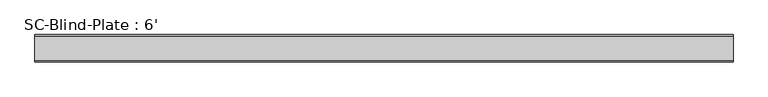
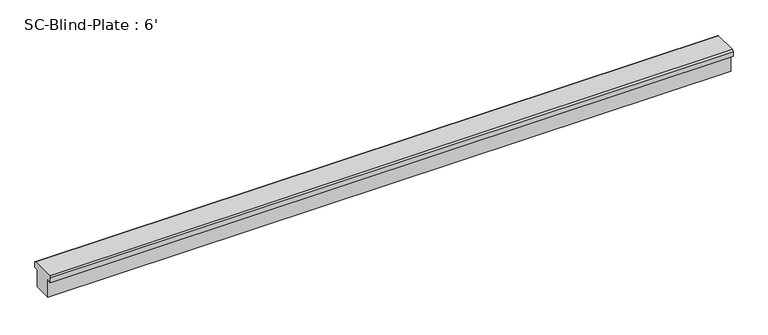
"""IFC4 building model written with IfcOpenShell, lengths in millimetres: proxy geometry, SC-Blind-Plate : 6'."""

import ifcopenshell
import ifcopenshell.guid

model = None  # the IFC model being written
_history = None  # IfcOwnerHistory: only IFC2X3 demands one
_inside = {}  # id of a spatial element -> (the spatial element, [elements in it])
_under = {}  # id of a project, library or spatial element -> (it, [spatial elements below it])
_declared = {}  # id of a project -> (the project, [libraries it declares])
_typed = {}  # id of a type object -> (the type object, [elements of that type])
_made_of = {}  # id of a material, layer set ... -> (it, [elements and type objects made of it])


def new_model(schema):
    """Start an empty IFC model of exactly this schema.

    Asked for "IFC4X3", IfcOpenShell would pick the latest addendum, in which some entities
    have other attributes; the version numbers below select the first issue.
    IFC2X3 requires an IfcOwnerHistory on every rooted entity: one is made here for all.
    """
    global model, _history
    if schema == "IFC4X3":
        model = ifcopenshell.file(schema_version=(4, 3, 0, 0))
    else:
        model = ifcopenshell.file(schema=schema)
    _inside.clear()
    _under.clear()
    _declared.clear()
    _typed.clear()
    _made_of.clear()
    _history = None
    if model.schema == "IFC2X3":
        org = make("IfcOrganization", Name="unknown")
        user = make(
            "IfcPersonAndOrganization",
            ThePerson=make("IfcPerson", FamilyName="unknown"),
            TheOrganization=org,
        )
        app = make(
            "IfcApplication",
            ApplicationDeveloper=org,
            Version="unknown",
            ApplicationFullName="unknown",
            ApplicationIdentifier="unknown",
        )
        _history = make(
            "IfcOwnerHistory",
            OwningUser=user,
            OwningApplication=app,
            ChangeAction="ADDED",
            CreationDate=0,
        )
    return model


def make(cls, **values):
    """One entity of the class cls with the attributes given. An attribute that is None is left unset."""
    return model.create_entity(
        cls, **{name: value for name, value in values.items() if value is not None}
    )


def rooted(cls, **values):
    """An entity with a GlobalId (a new one), such as an element, a storey or a relation."""
    return make(cls, GlobalId=ifcopenshell.guid.new(), OwnerHistory=_history, **values)


def si_unit(unit_type, name, prefix=None):
    """IfcSIUnit, for example si_unit("LENGTHUNIT", "METRE", prefix="MILLI")."""
    return make("IfcSIUnit", UnitType=unit_type, Prefix=prefix, Name=name)


def assignment(units):
    """IfcUnitAssignment: the units of a project."""
    return None if units is None else make("IfcUnitAssignment", Units=units)


def point(xyz):
    """IfcCartesianPoint."""
    return None if xyz is None else make("IfcCartesianPoint", Coordinates=xyz)


def direction(xyz):
    """IfcDirection."""
    return None if xyz is None else make("IfcDirection", DirectionRatios=xyz)


def frame(location, z_axis=None, x_axis=None):
    """IfcAxis2Placement3D, a coordinate frame: its origin and axes. An axis left out is left unset."""
    return make(
        "IfcAxis2Placement3D",
        Location=point(location),
        Axis=direction(z_axis),
        RefDirection=direction(x_axis),
    )


def frame_2d(location, x_axis=None):
    """IfcAxis2Placement2D, a coordinate frame in the plane: its origin and x axis."""
    return make(
        "IfcAxis2Placement2D", Location=point(location), RefDirection=direction(x_axis)
    )


def origin():
    """The frame at (0, 0, 0) with its axes left unset."""
    return frame((0.0, 0.0, 0.0))


def place(relative_to, where):
    """IfcLocalPlacement: puts the frame where relative to a parent placement (None: the world)."""
    return make(
        "IfcLocalPlacement", PlacementRelTo=relative_to, RelativePlacement=where
    )


def context(
    kind, dimensions, precision=None, world=None, true_north=None, identifier=None
):
    """IfcGeometricRepresentationContext, for example the 3D "Model" context."""
    return make(
        "IfcGeometricRepresentationContext",
        ContextIdentifier=identifier,
        ContextType=kind,
        CoordinateSpaceDimension=dimensions,
        Precision=precision,
        WorldCoordinateSystem=world,
        TrueNorth=true_north,
    )


def project(units=None, contexts=None):
    """IfcProject with its units and contexts."""
    return rooted(
        "IfcProject",
        Name="project",
        RepresentationContexts=contexts,
        UnitsInContext=assignment(units),
    )


def spatial(cls, under=None, at=None, **own):
    """A site, building, storey or space (cls), placed at a placement, below another one or the project."""
    s = rooted(cls, ObjectPlacement=at, **own)
    if under is not None:
        _under.setdefault(under.id(), (under, []))[1].append(s)
    return s


def polyline(points):
    """IfcPolyline through the points."""
    return make("IfcPolyline", Points=[point(p) for p in points])


def circle_curve(where, radius):
    """IfcCircle in the frame where."""
    return make("IfcCircle", Position=where, Radius=radius)


def trimmed(basis, trim1, trim2, sense, master):
    """IfcTrimmedCurve: the piece of a basis curve between two trims."""
    return make(
        "IfcTrimmedCurve",
        BasisCurve=basis,
        Trim1=trim1,
        Trim2=trim2,
        SenseAgreement=sense,
        MasterRepresentation=master,
    )


def segment(curve, same_sense, transition):
    """IfcCompositeCurveSegment."""
    return make(
        "IfcCompositeCurveSegment",
        Transition=transition,
        SameSense=same_sense,
        ParentCurve=curve,
    )


def composite_curve(segments, self_intersect=None):
    """IfcCompositeCurve: segments joined end to end."""
    return make("IfcCompositeCurve", Segments=segments, SelfIntersect=self_intersect)


def outline(outer, holes=None, kind="AREA"):
    """IfcArbitraryClosedProfileDef: a profile drawn as a closed curve; with holes, ...WithVoids."""
    if holes is None:
        return make("IfcArbitraryClosedProfileDef", ProfileType=kind, OuterCurve=outer)
    return make(
        "IfcArbitraryProfileDefWithVoids",
        ProfileType=kind,
        OuterCurve=outer,
        InnerCurves=holes,
    )


def extrude(swept, where, along, depth):
    """IfcExtrudedAreaSolid: the profile swept, set in the frame where, extruded along a direction by depth."""
    return make(
        "IfcExtrudedAreaSolid",
        SweptArea=swept,
        Position=where,
        ExtrudedDirection=direction(along),
        Depth=depth,
    )


def shape(context_of_items, identifier, shape_type, items):
    """IfcShapeRepresentation: the items that make up one representation, for example the "Body"."""
    return make(
        "IfcShapeRepresentation",
        ContextOfItems=context_of_items,
        RepresentationIdentifier=identifier,
        RepresentationType=shape_type,
        Items=items,
    )


def source(mapping_origin, context_of_items, identifier, shape_type, items):
    """IfcRepresentationMap: a shape defined once, which mapped items show again and again."""
    return make(
        "IfcRepresentationMap",
        MappingOrigin=mapping_origin,
        MappedRepresentation=shape(context_of_items, identifier, shape_type, items),
    )


def transform(
    local_origin,
    x_axis=None,
    y_axis=None,
    z_axis=None,
    scale=None,
    scale2=None,
    scale3=None,
    uniform=True,
):
    """IfcCartesianTransformationOperator3D, or its non-uniform kind. x_axis, y_axis, z_axis: its Axis1, 2, 3."""
    if uniform:
        return make(
            "IfcCartesianTransformationOperator3D",
            Axis1=direction(x_axis),
            Axis2=direction(y_axis),
            LocalOrigin=point(local_origin),
            Scale=scale,
            Axis3=direction(z_axis),
        )
    return make(
        "IfcCartesianTransformationOperator3DnonUniform",
        Axis1=direction(x_axis),
        Axis2=direction(y_axis),
        LocalOrigin=point(local_origin),
        Scale=scale,
        Axis3=direction(z_axis),
        Scale2=scale2,
        Scale3=scale3,
    )


def mapped(mapping_source, mapping_target):
    """IfcMappedItem: shows the shape of a source again, moved by a transform."""
    return make(
        "IfcMappedItem", MappingSource=mapping_source, MappingTarget=mapping_target
    )


def made_of(thing, what):
    """Note that an element or type object is made of a material, layer set ...; save() writes the relation."""
    if what is not None:
        _made_of.setdefault(what.id(), (what, []))[1].append(thing)
    return thing


def element(
    cls,
    number,
    at=None,
    inside=None,
    cuts=None,
    type_object=None,
    material=None,
    context=None,
    identifier="Body",
    shape_type=None,
    held_by="IfcProductDefinitionShape",
    body=None,
    shapes=None,
    **own,
):
    """One element of the class cls, such as IfcWall. Its Tag is "e" and its number.

    at: its placement. inside: the storey or other place that contains it. cuts: it is an
    opening in that element (IfcRelVoidsElement). A single representation is given by context,
    identifier, shape_type and body (its items); several are given by shapes. held_by: the class
    of the entity that holds the representations. save() writes the other relations.
    """
    e = rooted(cls, Tag="e%d" % number, ObjectPlacement=at, **own)
    if body is not None:
        shapes = [shape(context, identifier, shape_type, body)]
    if shapes is not None:
        e.Representation = make(held_by, Representations=shapes)
    if inside is not None:
        _inside.setdefault(inside.id(), (inside, []))[1].append(e)
    if cuts is not None:
        rooted(
            "IfcRelVoidsElement", RelatingBuildingElement=cuts, RelatedOpeningElement=e
        )
    if type_object is not None:
        _typed.setdefault(type_object.id(), (type_object, []))[1].append(e)
    return made_of(e, material)


def aggregate(whole, parts):
    """IfcRelAggregates: a whole, such as a stair, and the parts it consists of."""
    return rooted("IfcRelAggregates", RelatingObject=whole, RelatedObjects=parts)


def save(model, path):
    """Write the relations noted so far, then the file.

    IfcRelAggregates (storeys below a building ...), IfcRelContainedInSpatialStructure (elements
    in a storey), IfcRelDefinesByType, IfcRelAssociatesMaterial and IfcRelDeclares: one each for
    every whole, place, type object, material and project.
    """
    for whole, parts in _under.values():
        aggregate(whole, parts)
    for where, things in _inside.values():
        rooted(
            "IfcRelContainedInSpatialStructure",
            RelatedElements=things,
            RelatingStructure=where,
        )
    for kind, things in _typed.values():
        rooted("IfcRelDefinesByType", RelatedObjects=things, RelatingType=kind)
    for what, things in _made_of.values():
        rooted("IfcRelAssociatesMaterial", RelatedObjects=things, RelatingMaterial=what)
    for by, libraries in _declared.values():
        rooted("IfcRelDeclares", RelatingContext=by, RelatedDefinitions=libraries)
    model.write(path)


def sc_blind_plate_6_c634a5db(model_context):
    return source(origin(), model_context, "Body", "SweptSolid", [
        extrude(outline(composite_curve([segment(polyline([(22.225, 9.4401471), (-22.225, 9.4401471), (-22.225, 53.975), (-33.02, 53.975), (-33.02, 66.219198)]), True, "CONTINUOUS"), segment(trimmed(circle_curve(frame_2d((-29.3990509, 66.219198)), 3.6209491), [point((-33.02, 66.219198))], [point((-29.3990509, 69.8401471))], False, "CARTESIAN"), True, "CONTINUOUS"), segment(polyline([(-29.3990509, 69.8401471), (29.3990509, 69.8401471)]), True, "CONTINUOUS"), segment(trimmed(circle_curve(frame_2d((29.3990509, 66.219198)), 3.6209491), [point((29.3990509, 69.8401471))], [point((33.02, 66.219198))], False, "CARTESIAN"), True, "CONTINUOUS"), segment(polyline([(33.02, 66.219198), (33.02, 53.975), (22.225, 53.975), (22.225, 9.4401471)]), True, "CONTINUOUS")], self_intersect=False)), frame((-838.2, 0.0, 0.0), z_axis=(1.0, 0.0, 0.0), x_axis=(0.0, 1.0, 0.0)), (0.0, 0.0, 1.0), 1676.4),
    ])


if __name__ == "__main__":
    model = new_model("IFC4")
    model_context = context("Model", 3, world=origin())
    ifc_project = project(units=[si_unit("LENGTHUNIT", "METRE", prefix="MILLI")], contexts=[model_context])
    site = spatial("IfcSite", under=ifc_project)
    building = spatial("IfcBuilding", under=site)
    placement = place(None, origin())
    sc_blind_plate_6_shape = sc_blind_plate_6_c634a5db(model_context)
    element("IfcBuildingElementProxy", 1, Name="SC-Blind-Plate : 6'", ObjectType="SC-Blind-Plate : 6'", at=placement, inside=building, context=model_context, shape_type="MappedRepresentation", body=[
        mapped(sc_blind_plate_6_shape, transform((0.0, 0.0, 0.0), x_axis=(1.0, 0.0, 0.0), y_axis=(0.0, 1.0, 0.0), z_axis=(0.0, 0.0, 1.0))),
    ])
    save(model, "model.ifc")
